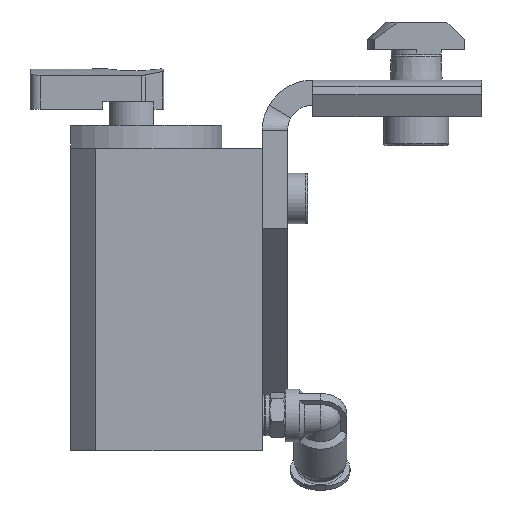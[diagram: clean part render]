
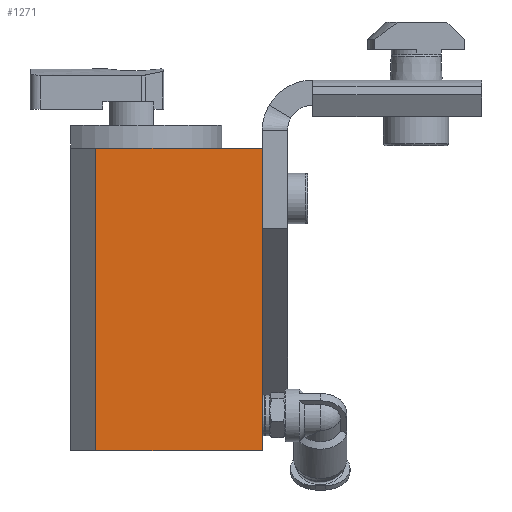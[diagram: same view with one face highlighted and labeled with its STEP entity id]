
A CAD part, left-side view. The second image highlights one B-rep face of the part: STEP entity #1271.
In plain terms, the highlighted planar face has unit normal (-1, 0, 0).
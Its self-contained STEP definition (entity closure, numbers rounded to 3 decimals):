
#281 = DIRECTION ( 'NONE',  ( 0., 0., 1. ) ) ;
#1271 = ADVANCED_FACE ( 'NONE', ( #14108 ), #2478, .T. ) ;
#2059 = CARTESIAN_POINT ( 'NONE',  ( -20., -9.5, -73.5 ) ) ;
#2229 = VECTOR ( 'NONE', #281, 1000. ) ;
#2478 = PLANE ( 'NONE',  #11063 ) ;
#2607 = CARTESIAN_POINT ( 'NONE',  ( -20., -9.5, -13.5 ) ) ;
#2732 = LINE ( 'NONE', #4991, #13953 ) ;
#2770 = VERTEX_POINT ( 'NONE', #7361 ) ;
#2970 = EDGE_CURVE ( 'NONE', #2770, #18145, #18066, .T. ) ;
#3296 = CARTESIAN_POINT ( 'NONE',  ( -20., -9.5, -73.5 ) ) ;
#3802 = DIRECTION ( 'NONE',  ( 0., 0., 1. ) ) ;
#4336 = DIRECTION ( 'NONE',  ( 0., -1., 0. ) ) ;
#4654 = CARTESIAN_POINT ( 'NONE',  ( -20., 23.5, -73.5 ) ) ;
#4991 = CARTESIAN_POINT ( 'NONE',  ( -20., -9.5, -73.5 ) ) ;
#5147 = DIRECTION ( 'NONE',  ( -1., 0., 0. ) ) ;
#5801 = EDGE_CURVE ( 'NONE', #18145, #16835, #2732, .T. ) ;
#6301 = LINE ( 'NONE', #13121, #14089 ) ;
#6655 = CARTESIAN_POINT ( 'NONE',  ( -20., 23.5, -73.5 ) ) ;
#7361 = CARTESIAN_POINT ( 'NONE',  ( -20., 23.5, -13.5 ) ) ;
#8791 = VERTEX_POINT ( 'NONE', #2607 ) ;
#9589 = DIRECTION ( 'NONE',  ( 0., -1., 0. ) ) ;
#10075 = LINE ( 'NONE', #3296, #2229 ) ;
#10451 = EDGE_CURVE ( 'NONE', #2770, #8791, #6301, .T. ) ;
#10526 = DIRECTION ( 'NONE',  ( 0., 0., -1. ) ) ;
#11063 = AXIS2_PLACEMENT_3D ( 'NONE', #2059, #5147, #3802 ) ;
#11104 = CARTESIAN_POINT ( 'NONE',  ( -20., -9.5, -73.5 ) ) ;
#12849 = EDGE_LOOP ( 'NONE', ( #13767, #17392, #18019, #18922 ) ) ;
#13121 = CARTESIAN_POINT ( 'NONE',  ( -20., -9.5, -13.5 ) ) ;
#13767 = ORIENTED_EDGE ( 'NONE', *, *, #10451, .F. ) ;
#13953 = VECTOR ( 'NONE', #9589, 1000. ) ;
#14089 = VECTOR ( 'NONE', #4336, 1000. ) ;
#14108 = FACE_OUTER_BOUND ( 'NONE', #12849, .T. ) ;
#16835 = VERTEX_POINT ( 'NONE', #11104 ) ;
#17292 = EDGE_CURVE ( 'NONE', #16835, #8791, #10075, .T. ) ;
#17392 = ORIENTED_EDGE ( 'NONE', *, *, #2970, .T. ) ;
#17616 = VECTOR ( 'NONE', #10526, 1000. ) ;
#18019 = ORIENTED_EDGE ( 'NONE', *, *, #5801, .T. ) ;
#18066 = LINE ( 'NONE', #4654, #17616 ) ;
#18145 = VERTEX_POINT ( 'NONE', #6655 ) ;
#18922 = ORIENTED_EDGE ( 'NONE', *, *, #17292, .T. ) ;
